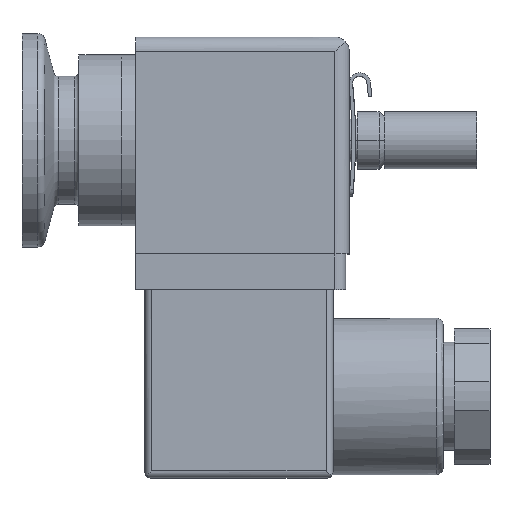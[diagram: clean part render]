
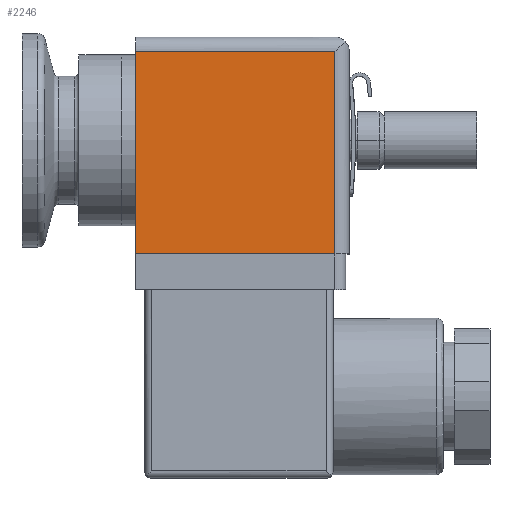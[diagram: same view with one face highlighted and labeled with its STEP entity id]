
A CAD part, top view. The second image highlights one B-rep face of the part: STEP entity #2246.
In plain terms, the highlighted planar face has unit normal (0, 0, 1) as drawn and (-1, 0, 0) by its records, which use the part's own axes.
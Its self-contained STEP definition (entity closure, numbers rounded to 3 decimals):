
#1080=LINE('',#8997,#1465);
#1096=LINE('',#9041,#1481);
#1098=LINE('',#9045,#1483);
#1099=LINE('',#9047,#1484);
#1465=VECTOR('',#7275,1.);
#1481=VECTOR('',#7321,1.);
#1483=VECTOR('',#7327,1.);
#1484=VECTOR('',#7328,1.);
#1825=FACE_OUTER_BOUND('',#2966,.T.);
#2246=ADVANCED_FACE('',(#1825),#2473,.F.);
#2473=PLANE('',#6090);
#2966=EDGE_LOOP('',(#4028,#4029,#4030,#4031));
#4028=ORIENTED_EDGE('',*,*,#5310,.T.);
#4029=ORIENTED_EDGE('',*,*,#5332,.F.);
#4030=ORIENTED_EDGE('',*,*,#5334,.F.);
#4031=ORIENTED_EDGE('',*,*,#5335,.F.);
#4719=VERTEX_POINT('',#8976);
#4729=VERTEX_POINT('',#8996);
#4742=VERTEX_POINT('',#9040);
#4743=VERTEX_POINT('',#9046);
#5310=EDGE_CURVE('',#4719,#4729,#1080,.T.);
#5332=EDGE_CURVE('',#4742,#4729,#1096,.T.);
#5334=EDGE_CURVE('',#4743,#4742,#1098,.T.);
#5335=EDGE_CURVE('',#4719,#4743,#1099,.T.);
#6090=AXIS2_PLACEMENT_3D('',#9048,#7329,#7330);
#7275=DIRECTION('',(0.,1.,0.));
#7321=DIRECTION('',(0.,0.,1.));
#7327=DIRECTION('',(0.,1.,0.));
#7328=DIRECTION('',(0.,0.,-1.));
#7329=DIRECTION('',(1.,0.,0.));
#7330=DIRECTION('',(0.,0.,1.));
#8976=CARTESIAN_POINT('',(-15.,-14.5,-5.));
#8996=CARTESIAN_POINT('',(-15.,13.5,-5.));
#8997=CARTESIAN_POINT('',(-15.,0.,-5.));
#9040=CARTESIAN_POINT('',(-15.,13.5,-33.5));
#9041=CARTESIAN_POINT('',(-15.,13.5,-17.411));
#9045=CARTESIAN_POINT('',(-15.,0.25,-33.5));
#9046=CARTESIAN_POINT('',(-15.,-14.5,-33.5));
#9047=CARTESIAN_POINT('',(-15.,-14.5,0.));
#9048=CARTESIAN_POINT('',(-15.,0.,0.));
